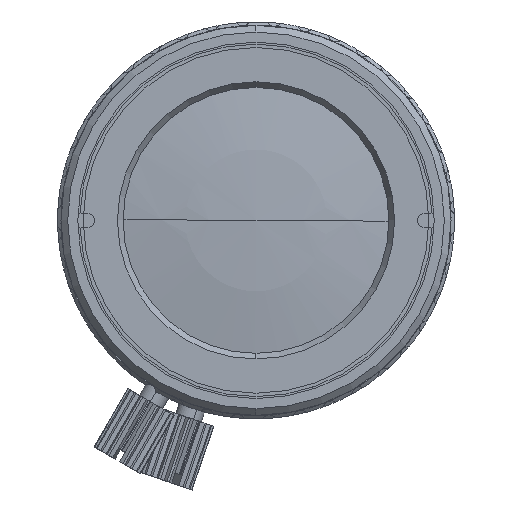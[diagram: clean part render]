
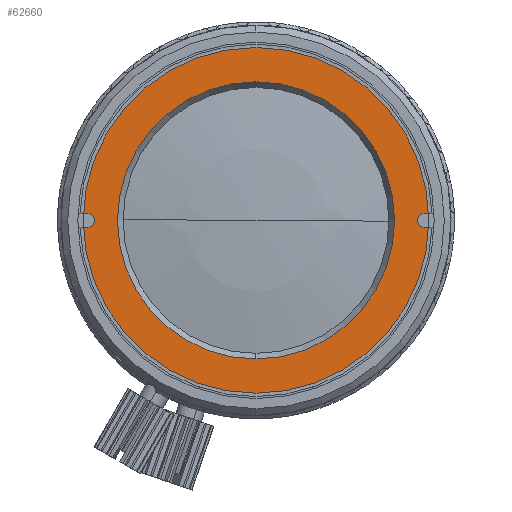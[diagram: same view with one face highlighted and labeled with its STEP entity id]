
A CAD part, left-side view. The second image highlights one B-rep face of the part: STEP entity #62660.
In plain terms, the highlighted planar face has unit normal (-1, 0, 0).
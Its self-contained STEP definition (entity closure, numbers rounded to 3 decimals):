
#1243 = VERTEX_POINT ( 'NONE', #18048 ) ;
#1368 = DIRECTION ( 'NONE',  ( 0., 0., 1. ) ) ;
#3535 = DIRECTION ( 'NONE',  ( 0., 0., 1. ) ) ;
#3806 = VERTEX_POINT ( 'NONE', #79151 ) ;
#3949 = ORIENTED_EDGE ( 'NONE', *, *, #31622, .F. ) ;
#5293 = CARTESIAN_POINT ( 'NONE',  ( -2.305, 0., 0. ) ) ;
#6647 = FACE_BOUND ( 'NONE', #65836, .T. ) ;
#6788 = CIRCLE ( 'NONE', #68820, 0.5 ) ;
#8227 = CARTESIAN_POINT ( 'NONE',  ( -2.305, 13.09, -0.5 ) ) ;
#9164 = VERTEX_POINT ( 'NONE', #26535 ) ;
#9529 = ORIENTED_EDGE ( 'NONE', *, *, #80012, .T. ) ;
#9664 = LINE ( 'NONE', #78671, #24183 ) ;
#10867 = CIRCLE ( 'NONE', #58357, 10.302 ) ;
#10918 = DIRECTION ( 'NONE',  ( -1., 0., 0. ) ) ;
#11068 = EDGE_CURVE ( 'NONE', #28937, #69102, #52051, .T. ) ;
#11613 = VECTOR ( 'NONE', #34251, 1000. ) ;
#11870 = DIRECTION ( 'NONE',  ( 0., 0., 1. ) ) ;
#12010 = EDGE_CURVE ( 'NONE', #69223, #25792, #40018, .T. ) ;
#12376 = CARTESIAN_POINT ( 'NONE',  ( -2.305, -13.09, 0.5 ) ) ;
#12933 = CARTESIAN_POINT ( 'NONE',  ( -2.305, -12.5, 0. ) ) ;
#14116 = VERTEX_POINT ( 'NONE', #74668 ) ;
#14658 = DIRECTION ( 'NONE',  ( 0., 0., 1. ) ) ;
#14993 = DIRECTION ( 'NONE',  ( 0., 0., 1. ) ) ;
#16618 = VECTOR ( 'NONE', #45683, 1000. ) ;
#18048 = CARTESIAN_POINT ( 'NONE',  ( -2.305, -13.09, -0.5 ) ) ;
#18087 = DIRECTION ( 'NONE',  ( -1., 0., 0. ) ) ;
#18384 = EDGE_CURVE ( 'NONE', #68174, #14116, #77278, .T. ) ;
#18831 = AXIS2_PLACEMENT_3D ( 'NONE', #5293, #18087, #11870 ) ;
#19156 = CIRCLE ( 'NONE', #20460, 13.1 ) ;
#20460 = AXIS2_PLACEMENT_3D ( 'NONE', #39792, #70820, #14993 ) ;
#21101 = DIRECTION ( 'NONE',  ( -1., 0., 0. ) ) ;
#21880 = CARTESIAN_POINT ( 'NONE',  ( -2.305, 0., 0.5 ) ) ;
#22602 = CARTESIAN_POINT ( 'NONE',  ( -2.305, 0., 10.302 ) ) ;
#22716 = DIRECTION ( 'NONE',  ( -1., 0., 0. ) ) ;
#24183 = VECTOR ( 'NONE', #47276, 1000. ) ;
#25453 = ORIENTED_EDGE ( 'NONE', *, *, #18384, .T. ) ;
#25792 = VERTEX_POINT ( 'NONE', #22602 ) ;
#25896 = ORIENTED_EDGE ( 'NONE', *, *, #65277, .F. ) ;
#26146 = DIRECTION ( 'NONE',  ( 1., 0., 0. ) ) ;
#26278 = VERTEX_POINT ( 'NONE', #63879 ) ;
#26532 = ORIENTED_EDGE ( 'NONE', *, *, #49909, .T. ) ;
#26535 = CARTESIAN_POINT ( 'NONE',  ( -2.305, -12.5, -0.5 ) ) ;
#26682 = ORIENTED_EDGE ( 'NONE', *, *, #11068, .T. ) ;
#26860 = AXIS2_PLACEMENT_3D ( 'NONE', #72116, #46903, #14658 ) ;
#28519 = DIRECTION ( 'NONE',  ( 0., 0., 1. ) ) ;
#28937 = VERTEX_POINT ( 'NONE', #71544 ) ;
#31024 = LINE ( 'NONE', #56244, #50981 ) ;
#31114 = VERTEX_POINT ( 'NONE', #68529 ) ;
#31622 = EDGE_CURVE ( 'NONE', #3806, #26278, #6788, .T. ) ;
#31875 = ORIENTED_EDGE ( 'NONE', *, *, #32449, .T. ) ;
#32025 = CARTESIAN_POINT ( 'NONE',  ( -2.305, 0., -0.5 ) ) ;
#32249 = EDGE_CURVE ( 'NONE', #25792, #69223, #10867, .T. ) ;
#32449 = EDGE_CURVE ( 'NONE', #14116, #1243, #72869, .T. ) ;
#32851 = LINE ( 'NONE', #32025, #16618 ) ;
#34251 = DIRECTION ( 'NONE',  ( 0., -1., 0. ) ) ;
#35668 = ORIENTED_EDGE ( 'NONE', *, *, #57201, .T. ) ;
#36686 = CIRCLE ( 'NONE', #55172, 0.5 ) ;
#38466 = DIRECTION ( 'NONE',  ( 0., -1., 0. ) ) ;
#38502 = CARTESIAN_POINT ( 'NONE',  ( -2.305, 13.09, 0.5 ) ) ;
#39792 = CARTESIAN_POINT ( 'NONE',  ( -2.305, 0., 0. ) ) ;
#40018 = CIRCLE ( 'NONE', #26860, 10.302 ) ;
#41318 = VERTEX_POINT ( 'NONE', #38502 ) ;
#45638 = ORIENTED_EDGE ( 'NONE', *, *, #12010, .F. ) ;
#45683 = DIRECTION ( 'NONE',  ( 0., 1., 0. ) ) ;
#46306 = DIRECTION ( 'NONE',  ( 0., 0., 1. ) ) ;
#46662 = CARTESIAN_POINT ( 'NONE',  ( -2.305, 0., -10.302 ) ) ;
#46903 = DIRECTION ( 'NONE',  ( -1., 0., 0. ) ) ;
#47276 = DIRECTION ( 'NONE',  ( 0., 1., 0. ) ) ;
#49909 = EDGE_CURVE ( 'NONE', #69102, #31114, #19156, .T. ) ;
#50487 = ORIENTED_EDGE ( 'NONE', *, *, #73878, .F. ) ;
#50981 = VECTOR ( 'NONE', #38466, 1000. ) ;
#51699 = CARTESIAN_POINT ( 'NONE',  ( -2.305, 0., 0. ) ) ;
#52051 = LINE ( 'NONE', #21880, #11613 ) ;
#53322 = CARTESIAN_POINT ( 'NONE',  ( -2.305, 0., 0. ) ) ;
#55172 = AXIS2_PLACEMENT_3D ( 'NONE', #12933, #26146, #1368 ) ;
#55219 = DIRECTION ( 'NONE',  ( 0., 0., 1. ) ) ;
#56244 = CARTESIAN_POINT ( 'NONE',  ( -2.305, 0., -0.5 ) ) ;
#56619 = PLANE ( 'NONE',  #70724 ) ;
#57028 = DIRECTION ( 'NONE',  ( 0., 0., 1. ) ) ;
#57201 = EDGE_CURVE ( 'NONE', #31114, #41318, #70361, .T. ) ;
#58357 = AXIS2_PLACEMENT_3D ( 'NONE', #51699, #21101, #46306 ) ;
#62291 = AXIS2_PLACEMENT_3D ( 'NONE', #53322, #22716, #28519 ) ;
#62660 = ADVANCED_FACE ( 'NONE', ( #63247, #6647 ), #56619, .T. ) ;
#62996 = EDGE_CURVE ( 'NONE', #3806, #68174, #32851, .T. ) ;
#63247 = FACE_OUTER_BOUND ( 'NONE', #78834, .T. ) ;
#63879 = CARTESIAN_POINT ( 'NONE',  ( -2.305, 12.5, 0.5 ) ) ;
#65277 = EDGE_CURVE ( 'NONE', #26278, #41318, #9664, .T. ) ;
#65455 = AXIS2_PLACEMENT_3D ( 'NONE', #65936, #10918, #3535 ) ;
#65836 = EDGE_LOOP ( 'NONE', ( #74337, #45638 ) ) ;
#65936 = CARTESIAN_POINT ( 'NONE',  ( -2.305, 0., 0. ) ) ;
#67622 = CARTESIAN_POINT ( 'NONE',  ( -2.305, 12.5, 0. ) ) ;
#68174 = VERTEX_POINT ( 'NONE', #8227 ) ;
#68229 = DIRECTION ( 'NONE',  ( -1., 0., 0. ) ) ;
#68529 = CARTESIAN_POINT ( 'NONE',  ( -2.305, 0., 13.1 ) ) ;
#68820 = AXIS2_PLACEMENT_3D ( 'NONE', #67622, #73409, #55219 ) ;
#69102 = VERTEX_POINT ( 'NONE', #12376 ) ;
#69223 = VERTEX_POINT ( 'NONE', #46662 ) ;
#70361 = CIRCLE ( 'NONE', #18831, 13.1 ) ;
#70724 = AXIS2_PLACEMENT_3D ( 'NONE', #80999, #68229, #57028 ) ;
#70820 = DIRECTION ( 'NONE',  ( -1., 0., 0. ) ) ;
#71544 = CARTESIAN_POINT ( 'NONE',  ( -2.305, -12.5, 0.5 ) ) ;
#71655 = ORIENTED_EDGE ( 'NONE', *, *, #62996, .T. ) ;
#72116 = CARTESIAN_POINT ( 'NONE',  ( -2.305, 0., 0. ) ) ;
#72869 = CIRCLE ( 'NONE', #62291, 13.1 ) ;
#73409 = DIRECTION ( 'NONE',  ( -1., 0., 0. ) ) ;
#73878 = EDGE_CURVE ( 'NONE', #9164, #1243, #31024, .T. ) ;
#74337 = ORIENTED_EDGE ( 'NONE', *, *, #32249, .F. ) ;
#74668 = CARTESIAN_POINT ( 'NONE',  ( -2.305, 0., -13.1 ) ) ;
#77278 = CIRCLE ( 'NONE', #65455, 13.1 ) ;
#78671 = CARTESIAN_POINT ( 'NONE',  ( -2.305, 0., 0.5 ) ) ;
#78834 = EDGE_LOOP ( 'NONE', ( #9529, #26682, #26532, #35668, #25896, #3949, #71655, #25453, #31875, #50487 ) ) ;
#79151 = CARTESIAN_POINT ( 'NONE',  ( -2.305, 12.5, -0.5 ) ) ;
#80012 = EDGE_CURVE ( 'NONE', #9164, #28937, #36686, .T. ) ;
#80999 = CARTESIAN_POINT ( 'NONE',  ( -2.305, 0., 0. ) ) ;
